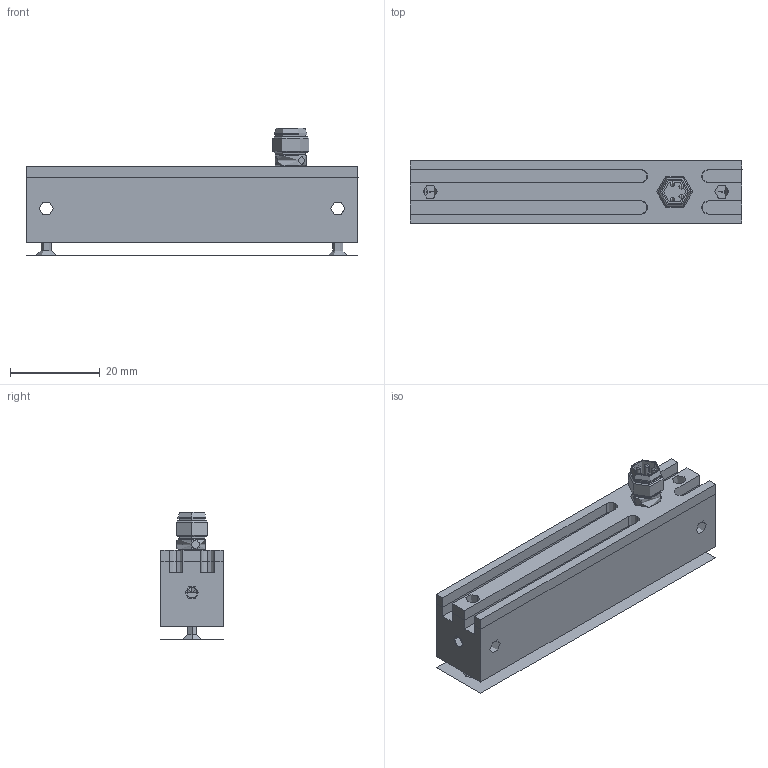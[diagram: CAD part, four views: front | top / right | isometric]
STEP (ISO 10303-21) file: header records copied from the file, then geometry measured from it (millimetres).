
FILE_DESCRIPTION(('STEP AP214'),'1');
FILE_NAME('Logo2-mit-Front-Kundendatei.stp','2015-03-30T12:28:01',(' '),(' '),'Spatial InterOp 3D',' ',' ');
FILE_SCHEMA(('automotive_design'));
Length unit declared in the file: millimetre
Products named in the file (4): Logo2-Front; M8-Einbaustecker2; Logo2-mit-Front-Kundendatei; M8-Einbaustecker
Assembly tree (3 placements, depth 3):
  Logo2-mit-Front-Kundendatei
    Logo2-Front
      M8-Einbaustecker2
    M8-Einbaustecker
Bounding box: 74 x 14.03 x 28.53 mm (x, y, z)
Topology: 1 solids, 22 shells, 175 faces, 487 edges, 343 vertices
Faces by surface type: cylinder 110, plane 47, cone 14, sphere 4
Entity records: 8262 total; most frequent: CARTESIAN_POINT 2158, DIRECTION 975, ORIENTED_EDGE 882, EDGE_CURVE 487, AXIS2_PLACEMENT_3D 389, VERTEX_POINT 347, EDGE_LOOP 212, CIRCLE 203
